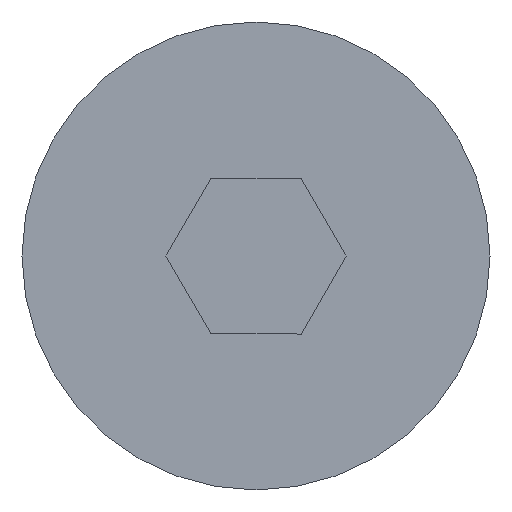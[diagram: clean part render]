
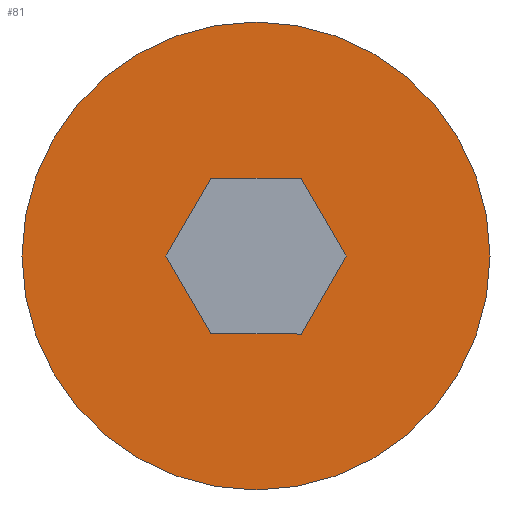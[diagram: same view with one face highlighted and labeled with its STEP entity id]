
A CAD part, left-side view. The second image highlights one B-rep face of the part: STEP entity #81.
In plain terms, the highlighted free-form (B-spline) face has degree [1, 1] with [3, 4] control points.
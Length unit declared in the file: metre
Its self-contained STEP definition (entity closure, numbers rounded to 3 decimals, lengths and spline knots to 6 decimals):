
#81 = ADVANCED_FACE( '', ( #101, #102 ), #103, .T. );
#101 = FACE_BOUND( '', #158, .T. );
#102 = FACE_OUTER_BOUND( '', #159, .T. );
#103 = B_SPLINE_SURFACE_WITH_KNOTS( '', 1, 1, ( ( #160, #161, #162, #163 ), ( #164, #165, #166, #167 ), ( #168, #169, #170, #171 ) ), .UNSPECIFIED., .F., .F., .F., ( 2, 1, 2 ), ( 2, 1, 1, 2 ), ( -0.409091, 0., 1. ), ( -0.287296, 0., 1., 1.287296 ), .UNSPECIFIED. );
#158 = EDGE_LOOP( '', ( #297, #298, #299, #300, #301, #302 ) );
#159 = EDGE_LOOP( '', ( #303 ) );
#160 = CARTESIAN_POINT( '', ( 13.162666, 0.237787, 9.620245 ) );
#161 = CARTESIAN_POINT( '', ( 13.162666, 0.237787, 9.616453 ) );
#162 = CARTESIAN_POINT( '', ( 13.162666, 0.237787, 9.603253 ) );
#163 = CARTESIAN_POINT( '', ( 13.162666, 0.237787, 9.599461 ) );
#164 = CARTESIAN_POINT( '', ( 13.162666, 0.243187, 9.620245 ) );
#165 = CARTESIAN_POINT( '', ( 13.162666, 0.243187, 9.616453 ) );
#166 = CARTESIAN_POINT( '', ( 13.162666, 0.243187, 9.603253 ) );
#167 = CARTESIAN_POINT( '', ( 13.162666, 0.243187, 9.599461 ) );
#168 = CARTESIAN_POINT( '', ( 13.162666, 0.256387, 9.620245 ) );
#169 = CARTESIAN_POINT( '', ( 13.162666, 0.256387, 9.616453 ) );
#170 = CARTESIAN_POINT( '', ( 13.162666, 0.256387, 9.603253 ) );
#171 = CARTESIAN_POINT( '', ( 13.162666, 0.256387, 9.599461 ) );
#297 = ORIENTED_EDGE( '', *, *, #333, .F. );
#298 = ORIENTED_EDGE( '', *, *, #336, .T. );
#299 = ORIENTED_EDGE( '', *, *, #337, .F. );
#300 = ORIENTED_EDGE( '', *, *, #330, .F. );
#301 = ORIENTED_EDGE( '', *, *, #328, .F. );
#302 = ORIENTED_EDGE( '', *, *, #335, .T. );
#303 = ORIENTED_EDGE( '', *, *, #338, .T. );
#328 = EDGE_CURVE( '', #357, #359, #360, .T. );
#330 = EDGE_CURVE( '', #359, #362, #363, .T. );
#333 = EDGE_CURVE( '', #365, #367, #368, .T. );
#335 = EDGE_CURVE( '', #357, #367, #370, .T. );
#336 = EDGE_CURVE( '', #365, #371, #372, .T. );
#337 = EDGE_CURVE( '', #362, #371, #373, .T. );
#338 = EDGE_CURVE( '', #374, #374, #375, .F. );
#357 = VERTEX_POINT( '', #405 );
#359 = VERTEX_POINT( '', #408 );
#360 = LINE( '', #409, #410 );
#362 = VERTEX_POINT( '', #413 );
#363 = LINE( '', #414, #415 );
#365 = VERTEX_POINT( '', #418 );
#367 = VERTEX_POINT( '', #421 );
#368 = LINE( '', #422, #423 );
#370 = B_SPLINE_CURVE_WITH_KNOTS( '', 3, ( #426, #427, #428, #429 ), .UNSPECIFIED., .F., .F., ( 4, 4 ), ( 0., 1. ), .UNSPECIFIED. );
#371 = VERTEX_POINT( '', #430 );
#372 = LINE( '', #431, #432 );
#373 = LINE( '', #433, #434 );
#374 = VERTEX_POINT( '', #435 );
#375 = CIRCLE( '', #436, 0.006 );
#405 = CARTESIAN_POINT( '', ( 13.162666, 0.250942, 9.607853 ) );
#408 = CARTESIAN_POINT( '', ( 13.162666, 0.248633, 9.607853 ) );
#409 = CARTESIAN_POINT( '', ( 13.162666, 0.249787, 9.607853 ) );
#410 = VECTOR( '', #454, 1. );
#413 = CARTESIAN_POINT( '', ( 13.162666, 0.247478, 9.609853 ) );
#414 = CARTESIAN_POINT( '', ( 13.162666, 0.248055, 9.608853 ) );
#415 = VECTOR( '', #456, 1. );
#418 = CARTESIAN_POINT( '', ( 13.162666, 0.250942, 9.611853 ) );
#421 = CARTESIAN_POINT( '', ( 13.162666, 0.252097, 9.609853 ) );
#422 = CARTESIAN_POINT( '', ( 13.162666, 0.251519, 9.610853 ) );
#423 = VECTOR( '', #459, 1. );
#426 = CARTESIAN_POINT( '', ( 13.162666, 0.250942, 9.607853 ) );
#427 = CARTESIAN_POINT( '', ( 13.162666, 0.251327, 9.60852 ) );
#428 = CARTESIAN_POINT( '', ( 13.162666, 0.251712, 9.609186 ) );
#429 = CARTESIAN_POINT( '', ( 13.162666, 0.252097, 9.609853 ) );
#430 = CARTESIAN_POINT( '', ( 13.162666, 0.248633, 9.611853 ) );
#431 = CARTESIAN_POINT( '', ( 13.162666, 0.247087, 9.611853 ) );
#432 = VECTOR( '', #461, 1. );
#433 = CARTESIAN_POINT( '', ( 13.162666, 0.248055, 9.610853 ) );
#434 = VECTOR( '', #462, 1. );
#435 = CARTESIAN_POINT( '', ( 13.162666, 0.255787, 9.609853 ) );
#436 = AXIS2_PLACEMENT_3D( '', #463, #464, #465 );
#454 = DIRECTION( '', ( 0., -1., 0. ) );
#456 = DIRECTION( '', ( 0., -0.5, 0.866 ) );
#459 = DIRECTION( '', ( 0., 0.5, -0.866 ) );
#461 = DIRECTION( '', ( 0., -1., 0. ) );
#462 = DIRECTION( '', ( 0., 0.5, 0.866 ) );
#463 = CARTESIAN_POINT( '', ( 13.162666, 0.249787, 9.609853 ) );
#464 = DIRECTION( '', ( 1., 0., 0. ) );
#465 = DIRECTION( '', ( 0., 0., -1. ) );
